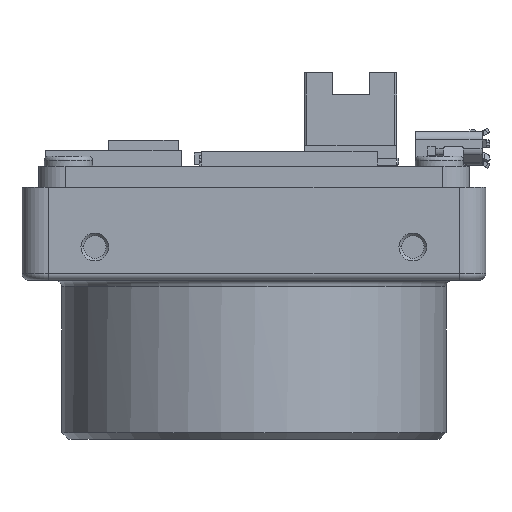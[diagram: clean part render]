
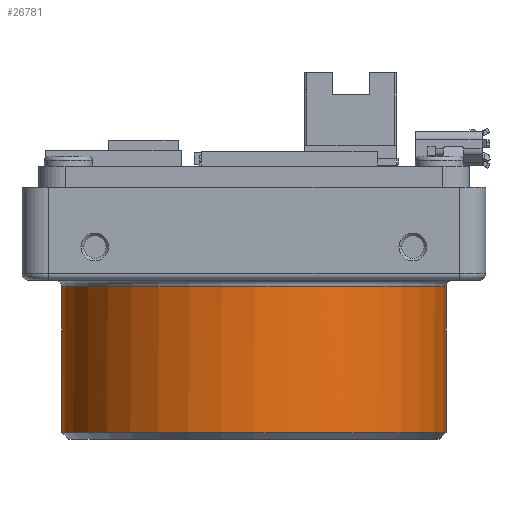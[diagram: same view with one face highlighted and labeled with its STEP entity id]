
A CAD part, front view. The second image highlights one B-rep face of the part: STEP entity #26781.
In plain terms, the highlighted cylindrical face has radius 14.5 mm (diameter 29 mm), a partial arc.
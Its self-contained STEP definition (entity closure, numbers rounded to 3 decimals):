
#4557=CARTESIAN_POINT('',(0.,0.,-11.51));
#4558=DIRECTION('',(0.,0.,-1.));
#4559=DIRECTION('',(1.,0.,0.));
#4560=AXIS2_PLACEMENT_3D('',#4557,#4558,#4559);
#4562=CARTESIAN_POINT('',(0.,0.,-11.51));
#4563=DIRECTION('',(0.,0.,-1.));
#4564=DIRECTION('',(0.,-1.,0.));
#4565=AXIS2_PLACEMENT_3D('',#4562,#4563,#4564);
#4567=DIRECTION('',(0.,0.,1.));
#4568=VECTOR('',#4567,11.01);
#4569=CARTESIAN_POINT('',(-14.5,0.,-11.51));
#4570=LINE('',#4569,#4568);
#4571=CARTESIAN_POINT('',(0.,0.,-0.5));
#4572=DIRECTION('',(0.,0.,1.));
#4573=DIRECTION('',(-1.,0.,0.));
#4574=AXIS2_PLACEMENT_3D('',#4571,#4572,#4573);
#4576=CARTESIAN_POINT('',(0.,0.,-0.5));
#4577=DIRECTION('',(0.,0.,1.));
#4578=DIRECTION('',(-1.,-0.011,0.));
#4579=AXIS2_PLACEMENT_3D('',#4576,#4577,#4578);
#4581=DIRECTION('',(0.,0.,-1.));
#4582=VECTOR('',#4581,11.01);
#4583=CARTESIAN_POINT('',(14.5,0.,-0.5));
#4584=LINE('',#4583,#4582);
#20564=CARTESIAN_POINT('',(-14.499,-0.154,-0.5));
#20565=CARTESIAN_POINT('',(14.5,0.,-0.5));
#20566=VERTEX_POINT('',#20564);
#20567=VERTEX_POINT('',#20565);
#20568=CARTESIAN_POINT('',(-14.5,0.,-0.5));
#20569=VERTEX_POINT('',#20568);
#20572=CARTESIAN_POINT('',(14.5,0.,-11.51));
#20574=VERTEX_POINT('',#20572);
#20576=CARTESIAN_POINT('',(-14.5,0.,-11.51));
#20577=VERTEX_POINT('',#20576);
#20594=CARTESIAN_POINT('',(0.,-14.5,-11.51));
#20595=VERTEX_POINT('',#20594);
#26768=CARTESIAN_POINT('',(0.,0.,-0.28));
#26769=DIRECTION('',(0.,0.,-1.));
#26770=DIRECTION('',(-1.,0.,0.));
#26771=AXIS2_PLACEMENT_3D('',#26768,#26769,#26770);
#26772=CYLINDRICAL_SURFACE('',#26771,14.5);
#26773=ORIENTED_EDGE('',*,*,#26762,.T.);
#26774=ORIENTED_EDGE('',*,*,#26760,.T.);
#26775=ORIENTED_EDGE('',*,*,#26705,.T.);
#26776=ORIENTED_EDGE('',*,*,#26669,.T.);
#26777=ORIENTED_EDGE('',*,*,#26667,.T.);
#26778=ORIENTED_EDGE('',*,*,#26701,.T.);
#26779=EDGE_LOOP('',(#26773,#26774,#26775,#26776,#26777,#26778));
#26780=FACE_OUTER_BOUND('',#26779,.F.);
#26781=ADVANCED_FACE('',(#26780),#26772,.T.);
#4561=CIRCLE('',#4560,14.5);
#4566=CIRCLE('',#4565,14.5);
#4575=CIRCLE('',#4574,14.5);
#4580=CIRCLE('',#4579,14.5);
#26667=EDGE_CURVE('',#20566,#20567,#4580,.T.);
#26669=EDGE_CURVE('',#20569,#20566,#4575,.T.);
#26701=EDGE_CURVE('',#20567,#20574,#4584,.T.);
#26705=EDGE_CURVE('',#20577,#20569,#4570,.T.);
#26760=EDGE_CURVE('',#20595,#20577,#4566,.T.);
#26762=EDGE_CURVE('',#20574,#20595,#4561,.T.);
